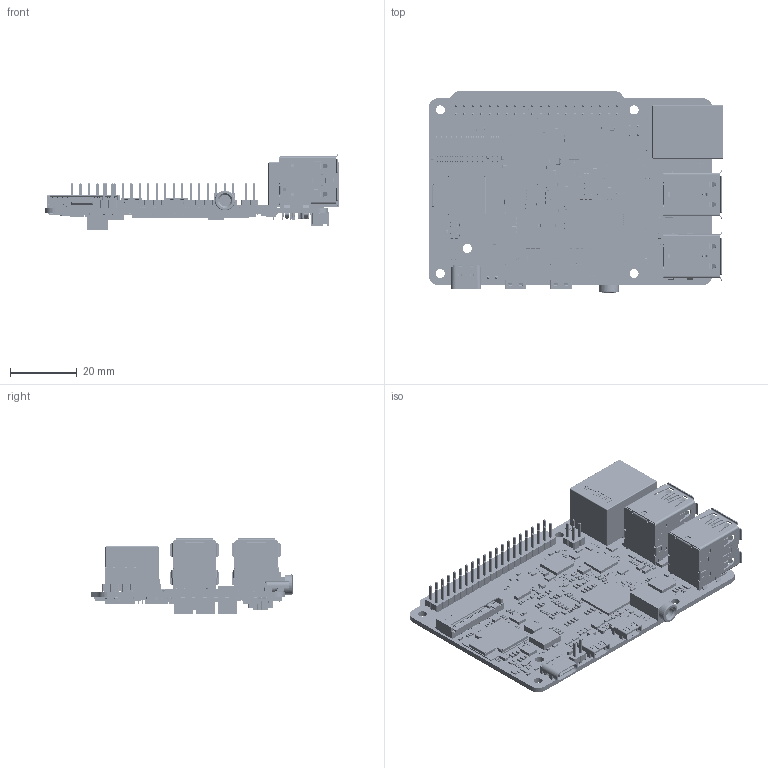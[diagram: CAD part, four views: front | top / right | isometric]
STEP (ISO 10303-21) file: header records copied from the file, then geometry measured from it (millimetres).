
FILE_DESCRIPTION((''),'2;1');
FILE_NAME('X4_PCBA_X1_1','2024-08-07T18:44:22',('admin'),(''),'CREO PARAMETRIC BY PTC INC, 2024153','CREO PARAMETRIC BY PTC INC, 2024153','');
FILE_SCHEMA(('CONFIG_CONTROL_DESIGN','SHAPE_APPEARANCE_LAYERS_GROUPS'));
Products named in the file (1): X4_PCBA_X1_1
Bounding box: 88.29 x 60.2 x 22.8 mm (x, y, z)
Volume: 21449.2 mm3; surface area: 25048.4 mm2
Topology: 163 solids, 405 shells, 45098 faces, 105080 edges, 59478 vertices
Faces by surface type: plane 20796, cylinder 17203, sphere 4859, torus 1938, bspline 260, extrusion 33, cone 9
Entity records: 1869893 total; most frequent: CARTESIAN_POINT 242287, DIRECTION 219534, ORIENTED_EDGE 206528, PRESENTATION_STYLE_ASSIGNMENT 143093, STYLED_ITEM 103669, CURVE_STYLE 103264, EDGE_CURVE 103264, AXIS2_PLACEMENT_3D 76546
